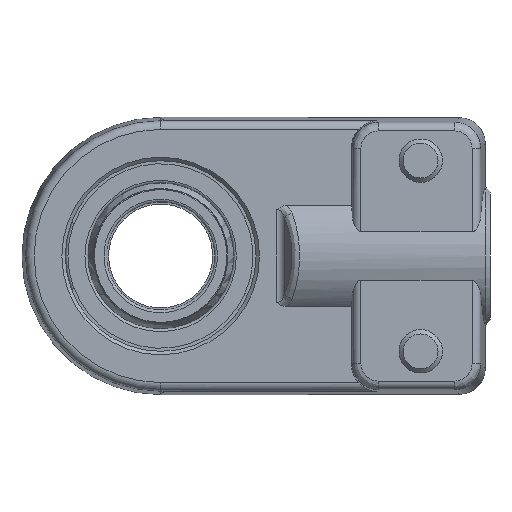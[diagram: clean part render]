
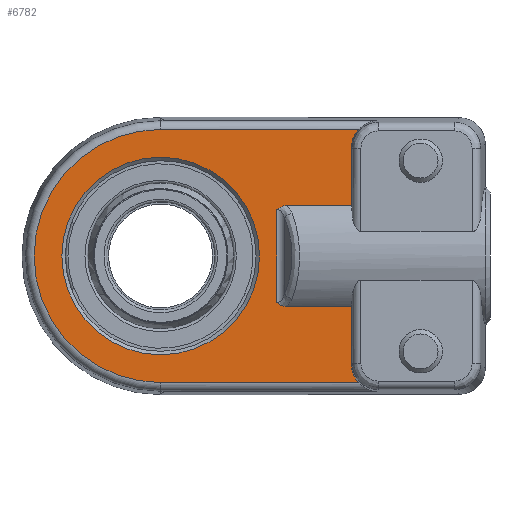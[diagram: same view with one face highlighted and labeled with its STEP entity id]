
A CAD part, left-side view. The second image highlights one B-rep face of the part: STEP entity #6782.
In plain terms, the highlighted planar face has unit normal (-1, 0, 0) as drawn and (0, 0, -1) by its records, which use the part's own axes.
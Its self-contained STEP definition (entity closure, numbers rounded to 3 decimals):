
#2709=CARTESIAN_POINT('',(-5.809,-22.019,-5.5));
#2710=VERTEX_POINT('',#2709);
#2718=CARTESIAN_POINT('',(-5.809,-14.496,-5.5));
#2719=VERTEX_POINT('',#2718);
#2720=CARTESIAN_POINT('',(-5.809,-14.496,-5.5));
#2721=DIRECTION('',(0.0,-1.0,0.0));
#2722=VECTOR('',#2721,7.523);
#2723=LINE('',#2720,#2722);
#2724=EDGE_CURVE('',#2719,#2710,#2723,.T.);
#2745=CARTESIAN_POINT('',(5.809,-14.496,-5.5));
#2746=VERTEX_POINT('',#2745);
#2757=CARTESIAN_POINT('',(5.809,-22.019,-5.5));
#2758=VERTEX_POINT('',#2757);
#2759=CARTESIAN_POINT('',(5.809,-22.019,-5.5));
#2760=DIRECTION('',(0.0,1.0,0.0));
#2761=VECTOR('',#2760,7.523);
#2762=LINE('',#2759,#2761);
#2763=EDGE_CURVE('',#2758,#2746,#2762,.T.);
#3250=CARTESIAN_POINT('',(0.0,11.4,-5.5));
#3251=VERTEX_POINT('',#3250);
#3252=CARTESIAN_POINT('',(0.0,0.0,-5.5));
#3253=DIRECTION('',(0.0,0.0,1.0));
#3254=DIRECTION('',(0.0,1.0,0.0));
#3255=AXIS2_PLACEMENT_3D('',#3252,#3253,#3254);
#3256=CIRCLE('',#3255,11.4);
#3257=EDGE_CURVE('',#3251,#3251,#3256,.T.);
#6279=CARTESIAN_POINT('',(12.53,-22.019,-5.5));
#6280=VERTEX_POINT('',#6279);
#6287=CARTESIAN_POINT('',(14.602,-22.851,-5.5));
#6288=VERTEX_POINT('',#6287);
#6289=CARTESIAN_POINT('',(12.507,-25.03,-5.5));
#6290=DIRECTION('',(0.0,0.0,1.0));
#6291=DIRECTION('',(0.707,0.707,0.0));
#6292=AXIS2_PLACEMENT_3D('',#6289,#6290,#6291);
#6293=ELLIPSE('',#6292,3.023,3.);
#6294=EDGE_CURVE('',#6280,#6288,#6293,.F.);
#6320=CARTESIAN_POINT('',(12.53,-22.019,-5.5));
#6321=DIRECTION('',(-1.0,0.0,0.0));
#6322=VECTOR('',#6321,6.721);
#6323=LINE('',#6320,#6322);
#6324=EDGE_CURVE('',#6280,#2758,#6323,.T.);
#6665=CARTESIAN_POINT('',(14.602,0.,-5.5));
#6666=VERTEX_POINT('',#6665);
#6674=CARTESIAN_POINT('',(-14.602,0.,-5.5));
#6675=VERTEX_POINT('',#6674);
#6676=CARTESIAN_POINT('',(0.,0.,-5.5));
#6677=DIRECTION('',(0.0,0.0,1.0));
#6678=DIRECTION('',(0.0,1.0,0.0));
#6679=AXIS2_PLACEMENT_3D('',#6676,#6677,#6678);
#6680=CIRCLE('',#6679,14.602);
#6681=EDGE_CURVE('',#6666,#6675,#6680,.T.);
#6702=CARTESIAN_POINT('',(0.,0.0,-5.5));
#6703=DIRECTION('',(0.0,0.0,1.0));
#6704=DIRECTION('',(1.0,0.0,0.0));
#6705=AXIS2_PLACEMENT_3D('',#6702,#6703,#6704);
#6706=PLANE('',#6705);
#6707=ORIENTED_EDGE('',*,*,#6681,.F.);
#6708=CARTESIAN_POINT('',(14.602,-22.851,-5.5));
#6709=DIRECTION('',(0.0,1.0,0.0));
#6710=VECTOR('',#6709,22.852);
#6711=LINE('',#6708,#6710);
#6712=EDGE_CURVE('',#6288,#6666,#6711,.T.);
#6713=ORIENTED_EDGE('',*,*,#6712,.F.);
#6714=ORIENTED_EDGE('',*,*,#6294,.F.);
#6715=ORIENTED_EDGE('',*,*,#6324,.T.);
#6716=ORIENTED_EDGE('',*,*,#2763,.T.);
#6717=CARTESIAN_POINT('',(5.362,-13.423,-5.5));
#6718=VERTEX_POINT('',#6717);
#6719=CARTESIAN_POINT('',(5.809,-14.496,-5.5));
#6720=CARTESIAN_POINT('',(5.809,-14.443,-5.5));
#6721=CARTESIAN_POINT('',(5.807,-14.39,-5.5));
#6722=CARTESIAN_POINT('',(5.783,-14.162,-5.5));
#6723=CARTESIAN_POINT('',(5.735,-13.992,-5.5));
#6724=CARTESIAN_POINT('',(5.597,-13.711,-5.5));
#6725=CARTESIAN_POINT('',(5.509,-13.57,-5.5));
#6726=CARTESIAN_POINT('',(5.365,-13.425,-5.5));
#6727=CARTESIAN_POINT('',(5.363,-13.424,-5.5));
#6728=CARTESIAN_POINT('',(5.362,-13.423,-5.5));
#6729=B_SPLINE_CURVE_WITH_KNOTS('',3,(#6719,#6720,#6721,#6722,#6723,#6724,#6725,#6726,#6727,#6728),.UNSPECIFIED.,.F.,.U.,(4,2,2,2,4),(0.0,0.016,0.069,0.11,0.11),.UNSPECIFIED.);
#6730=EDGE_CURVE('',#6718,#2746,#6729,.F.);
#6731=ORIENTED_EDGE('',*,*,#6730,.F.);
#6732=CARTESIAN_POINT('',(-5.362,-13.423,-5.5));
#6733=VERTEX_POINT('',#6732);
#6734=CARTESIAN_POINT('',(-5.362,-13.423,-5.5));
#6735=DIRECTION('',(1.0,0.0,0.0));
#6736=VECTOR('',#6735,10.724);
#6737=LINE('',#6734,#6736);
#6738=EDGE_CURVE('',#6733,#6718,#6737,.T.);
#6739=ORIENTED_EDGE('',*,*,#6738,.F.);
#6740=CARTESIAN_POINT('',(-5.362,-13.423,-5.5));
#6741=CARTESIAN_POINT('',(-5.363,-13.424,-5.5));
#6742=CARTESIAN_POINT('',(-5.365,-13.425,-5.5));
#6743=CARTESIAN_POINT('',(-5.441,-13.502,-5.5));
#6744=CARTESIAN_POINT('',(-5.507,-13.583,-5.5));
#6745=CARTESIAN_POINT('',(-5.622,-13.758,-5.5));
#6746=CARTESIAN_POINT('',(-5.67,-13.851,-5.5));
#6747=CARTESIAN_POINT('',(-5.775,-14.122,-5.5));
#6748=CARTESIAN_POINT('',(-5.809,-14.308,-5.5));
#6749=CARTESIAN_POINT('',(-5.809,-14.496,-5.5));
#6750=B_SPLINE_CURVE_WITH_KNOTS('',3,(#6740,#6741,#6742,#6743,#6744,#6745,#6746,#6747,#6748,#6749),.UNSPECIFIED.,.F.,.U.,(4,2,2,2,4),(-0.001,0.0,0.032,0.063,0.12),.UNSPECIFIED.);
#6751=EDGE_CURVE('',#2719,#6733,#6750,.F.);
#6752=ORIENTED_EDGE('',*,*,#6751,.F.);
#6753=ORIENTED_EDGE('',*,*,#2724,.T.);
#6754=CARTESIAN_POINT('',(-12.53,-22.019,-5.5));
#6755=VERTEX_POINT('',#6754);
#6756=CARTESIAN_POINT('',(-5.809,-22.019,-5.5));
#6757=DIRECTION('',(-1.0,0.0,0.0));
#6758=VECTOR('',#6757,6.721);
#6759=LINE('',#6756,#6758);
#6760=EDGE_CURVE('',#2710,#6755,#6759,.T.);
#6761=ORIENTED_EDGE('',*,*,#6760,.T.);
#6762=CARTESIAN_POINT('',(-14.602,-22.851,-5.5));
#6763=VERTEX_POINT('',#6762);
#6764=CARTESIAN_POINT('',(-12.507,-25.03,-5.5));
#6765=DIRECTION('',(0.0,0.0,1.));
#6766=DIRECTION('',(-0.707,0.707,0.0));
#6767=AXIS2_PLACEMENT_3D('',#6764,#6765,#6766);
#6768=ELLIPSE('',#6767,3.023,3.0);
#6769=EDGE_CURVE('',#6763,#6755,#6768,.F.);
#6770=ORIENTED_EDGE('',*,*,#6769,.F.);
#6771=CARTESIAN_POINT('',(-14.602,0.,-5.5));
#6772=DIRECTION('',(0.0,-1.0,0.0));
#6773=VECTOR('',#6772,22.852);
#6774=LINE('',#6771,#6773);
#6775=EDGE_CURVE('',#6675,#6763,#6774,.T.);
#6776=ORIENTED_EDGE('',*,*,#6775,.F.);
#6777=EDGE_LOOP('',(#6707,#6713,#6714,#6715,#6716,#6731,#6739,#6752,#6753,#6761,#6770,#6776));
#6778=FACE_OUTER_BOUND('',#6777,.T.);
#6779=ORIENTED_EDGE('',*,*,#3257,.T.);
#6780=EDGE_LOOP('',(#6779));
#6781=FACE_BOUND('',#6780,.T.);
#6782=ADVANCED_FACE('',(#6778,#6781),#6706,.F.);
